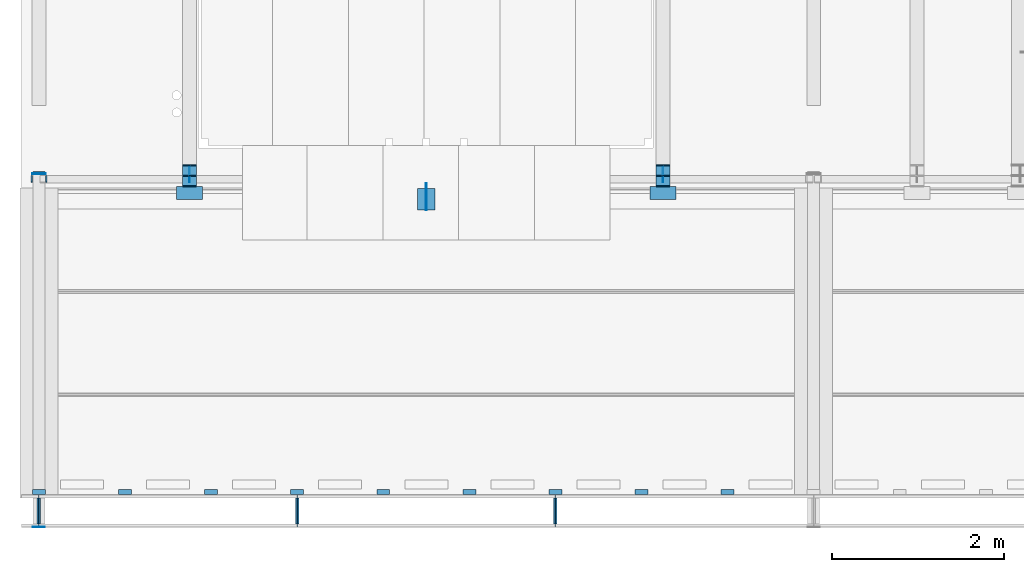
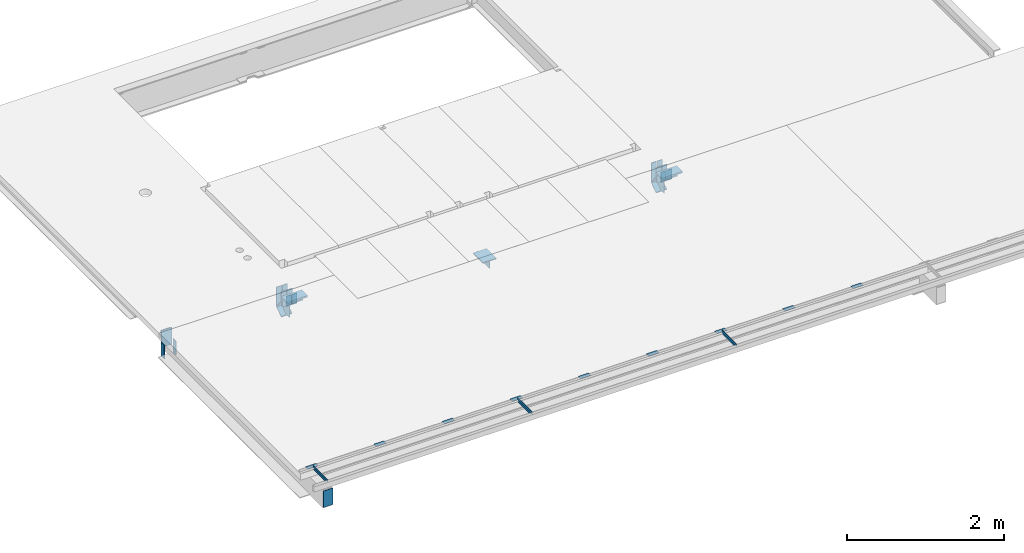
# One storey, part 3 of 13: 41 beams.
"""IFC2X3 building model written with IfcOpenShell, lengths in millimetres."""

import ifcopenshell
import ifcopenshell.guid

model = None  # the IFC model being written
_history = None  # IfcOwnerHistory: only IFC2X3 demands one
_inside = {}  # id of a spatial element -> (the spatial element, [elements in it])
_under = {}  # id of a project, library or spatial element -> (it, [spatial elements below it])
_declared = {}  # id of a project -> (the project, [libraries it declares])
_typed = {}  # id of a type object -> (the type object, [elements of that type])
_made_of = {}  # id of a material, layer set ... -> (it, [elements and type objects made of it])


def new_model(schema):
    """Start an empty IFC model of exactly this schema.

    Asked for "IFC4X3", IfcOpenShell would pick the latest addendum, in which some entities
    have other attributes; the version numbers below select the first issue.
    IFC2X3 requires an IfcOwnerHistory on every rooted entity: one is made here for all.
    """
    global model, _history
    if schema == "IFC4X3":
        model = ifcopenshell.file(schema_version=(4, 3, 0, 0))
    else:
        model = ifcopenshell.file(schema=schema)
    _inside.clear()
    _under.clear()
    _declared.clear()
    _typed.clear()
    _made_of.clear()
    _history = None
    if model.schema == "IFC2X3":
        org = make("IfcOrganization", Name="unknown")
        user = make(
            "IfcPersonAndOrganization",
            ThePerson=make("IfcPerson", FamilyName="unknown"),
            TheOrganization=org,
        )
        app = make(
            "IfcApplication",
            ApplicationDeveloper=org,
            Version="unknown",
            ApplicationFullName="unknown",
            ApplicationIdentifier="unknown",
        )
        _history = make(
            "IfcOwnerHistory",
            OwningUser=user,
            OwningApplication=app,
            ChangeAction="ADDED",
            CreationDate=0,
        )
    return model


def make(cls, **values):
    """One entity of the class cls with the attributes given. An attribute that is None is left unset."""
    return model.create_entity(
        cls, **{name: value for name, value in values.items() if value is not None}
    )


def entity(cls, *values):
    """Any entity or typed value of the class cls, its attributes in the order of the schema. None: left unset."""
    e = model.create_entity(cls)
    for i, value in enumerate(values):
        if value is not None:
            e[i] = value
    return e


def rooted(cls, **values):
    """An entity with a GlobalId (a new one), such as an element, a storey or a relation."""
    return make(cls, GlobalId=ifcopenshell.guid.new(), OwnerHistory=_history, **values)


def si_unit(unit_type, name, prefix=None):
    """IfcSIUnit, for example si_unit("LENGTHUNIT", "METRE", prefix="MILLI")."""
    return make("IfcSIUnit", UnitType=unit_type, Prefix=prefix, Name=name)


def converted_unit(unit_type, name, factor, base, dimensions=None, offset=None):
    """IfcConversionBasedUnit, such as the inch: factor (a typed value) times the base unit."""
    return make(
        "IfcConversionBasedUnit"
        if offset is None
        else "IfcConversionBasedUnitWithOffset",
        ConversionOffset=offset,
        Dimensions=None
        if dimensions is None
        else entity("IfcDimensionalExponents", *dimensions),
        UnitType=unit_type,
        Name=name,
        ConversionFactor=make(
            "IfcMeasureWithUnit", ValueComponent=factor, UnitComponent=base
        ),
    )


def derived_unit(unit_type, elements):
    """IfcDerivedUnit: a product of units, each with its exponent."""
    return make(
        "IfcDerivedUnit",
        Elements=[
            make("IfcDerivedUnitElement", Unit=unit, Exponent=power)
            for unit, power in elements
        ],
        UnitType=unit_type,
    )


def assignment(units):
    """IfcUnitAssignment: the units of a project."""
    return None if units is None else make("IfcUnitAssignment", Units=units)


def point(xyz):
    """IfcCartesianPoint."""
    return None if xyz is None else make("IfcCartesianPoint", Coordinates=xyz)


def direction(xyz):
    """IfcDirection."""
    return None if xyz is None else make("IfcDirection", DirectionRatios=xyz)


def frame(location, z_axis=None, x_axis=None):
    """IfcAxis2Placement3D, a coordinate frame: its origin and axes. An axis left out is left unset."""
    return make(
        "IfcAxis2Placement3D",
        Location=point(location),
        Axis=direction(z_axis),
        RefDirection=direction(x_axis),
    )


def origin_with_axes():
    """The frame at (0, 0, 0) with the z axis (0, 0, 1) and the x axis (1, 0, 0) written out."""
    return frame((0.0, 0.0, 0.0), z_axis=(0.0, 0.0, 1.0), x_axis=(1.0, 0.0, 0.0))


def place(relative_to, where):
    """IfcLocalPlacement: puts the frame where relative to a parent placement (None: the world)."""
    return make(
        "IfcLocalPlacement", PlacementRelTo=relative_to, RelativePlacement=where
    )


def context(
    kind, dimensions, precision=None, world=None, true_north=None, identifier=None
):
    """IfcGeometricRepresentationContext, for example the 3D "Model" context."""
    return make(
        "IfcGeometricRepresentationContext",
        ContextIdentifier=identifier,
        ContextType=kind,
        CoordinateSpaceDimension=dimensions,
        Precision=precision,
        WorldCoordinateSystem=world,
        TrueNorth=true_north,
    )


def subcontext(parent, identifier, kind, view, scale=None):
    """IfcGeometricRepresentationSubContext, for example "Body" below "Model"."""
    return make(
        "IfcGeometricRepresentationSubContext",
        ContextIdentifier=identifier,
        ContextType=kind,
        ParentContext=parent,
        TargetScale=scale,
        TargetView=view,
    )


def project(units=None, contexts=None):
    """IfcProject with its units and contexts."""
    return rooted(
        "IfcProject",
        Name="project",
        RepresentationContexts=contexts,
        UnitsInContext=assignment(units),
    )


def spatial(cls, under=None, at=None, **own):
    """A site, building, storey or space (cls), placed at a placement, below another one or the project."""
    s = rooted(cls, ObjectPlacement=at, **own)
    if under is not None:
        _under.setdefault(under.id(), (under, []))[1].append(s)
    return s


def faces_of(points, faces, orient=None, outer=None):
    """IfcFace entities. A face is a list of loops; a loop is a list of indices into points, from 0.

    orient and outer hold one flag for each loop. By default every Orientation is true, the
    first loop of a face is its IfcFaceOuterBound and the others are IfcFaceBound.
    """
    made = []
    for i, loops in enumerate(faces):
        bounds = []
        for j, loop in enumerate(loops):
            is_outer = j == 0 if outer is None else outer[i][j]
            bounds.append(
                make(
                    "IfcFaceOuterBound" if is_outer else "IfcFaceBound",
                    Bound=make("IfcPolyLoop", Polygon=[points[k] for k in loop]),
                    Orientation=True if orient is None else orient[i][j],
                )
            )
        made.append(make("IfcFace", Bounds=bounds))
    return made


def faceted_brep(points, faces, orient=None, outer=None, voids=None):
    """IfcFacetedBrep: a solid bounded by flat faces; with voids (closed shells), ...WithVoids."""
    shared = [point(p) for p in points]
    hull = make("IfcClosedShell", CfsFaces=faces_of(shared, faces, orient, outer))
    if voids is None:
        return make("IfcFacetedBrep", Outer=hull)
    return make(
        "IfcFacetedBrepWithVoids",
        Outer=hull,
        Voids=[
            make(cls, CfsFaces=faces_of(shared, fs, o, b)) for cls, fs, o, b in voids
        ],
    )


def shape(context_of_items, identifier, shape_type, items):
    """IfcShapeRepresentation: the items that make up one representation, for example the "Body"."""
    return make(
        "IfcShapeRepresentation",
        ContextOfItems=context_of_items,
        RepresentationIdentifier=identifier,
        RepresentationType=shape_type,
        Items=items,
    )


def material(Name=None, Category=None):
    """IfcMaterial."""
    return make("IfcMaterial", Name=Name, Category=Category)


def made_of(thing, what):
    """Note that an element or type object is made of a material, layer set ...; save() writes the relation."""
    if what is not None:
        _made_of.setdefault(what.id(), (what, []))[1].append(thing)
    return thing


def type_object(cls, material=None, **own):
    """A type object (cls), such as IfcWallType, which elements share."""
    return made_of(rooted(cls, **own), material)


def element(
    cls,
    number,
    at=None,
    inside=None,
    cuts=None,
    type_object=None,
    material=None,
    context=None,
    identifier="Body",
    shape_type=None,
    held_by="IfcProductDefinitionShape",
    body=None,
    shapes=None,
    **own,
):
    """One element of the class cls, such as IfcWall. Its Tag is "e" and its number.

    at: its placement. inside: the storey or other place that contains it. cuts: it is an
    opening in that element (IfcRelVoidsElement). A single representation is given by context,
    identifier, shape_type and body (its items); several are given by shapes. held_by: the class
    of the entity that holds the representations. save() writes the other relations.
    """
    e = rooted(cls, Tag="e%d" % number, ObjectPlacement=at, **own)
    if body is not None:
        shapes = [shape(context, identifier, shape_type, body)]
    if shapes is not None:
        e.Representation = make(held_by, Representations=shapes)
    if inside is not None:
        _inside.setdefault(inside.id(), (inside, []))[1].append(e)
    if cuts is not None:
        rooted(
            "IfcRelVoidsElement", RelatingBuildingElement=cuts, RelatedOpeningElement=e
        )
    if type_object is not None:
        _typed.setdefault(type_object.id(), (type_object, []))[1].append(e)
    return made_of(e, material)


def aggregate(whole, parts):
    """IfcRelAggregates: a whole, such as a stair, and the parts it consists of."""
    return rooted("IfcRelAggregates", RelatingObject=whole, RelatedObjects=parts)


def save(model, path):
    """Write the relations noted so far, then the file.

    IfcRelAggregates (storeys below a building ...), IfcRelContainedInSpatialStructure (elements
    in a storey), IfcRelDefinesByType, IfcRelAssociatesMaterial and IfcRelDeclares: one each for
    every whole, place, type object, material and project.
    """
    for whole, parts in _under.values():
        aggregate(whole, parts)
    for where, things in _inside.values():
        rooted(
            "IfcRelContainedInSpatialStructure",
            RelatedElements=things,
            RelatingStructure=where,
        )
    for kind, things in _typed.values():
        rooted("IfcRelDefinesByType", RelatedObjects=things, RelatingType=kind)
    for what, things in _made_of.values():
        rooted("IfcRelAssociatesMaterial", RelatedObjects=things, RelatingMaterial=what)
    for by, libraries in _declared.values():
        rooted("IfcRelDeclares", RelatingContext=by, RelatedDefinitions=libraries)
    model.write(path)


model = new_model("IFC2X3")

# Units and contexts
model_context = context("Model", 3, precision=0.01, world=frame((0.0, 4.29681676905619e-09, 0.0)), true_north=direction((4.01073788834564e-13, 1.0)))
plan_context = context("Plan", 3, precision=0.01, world=frame((0.0, 4.29681676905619e-09, 0.0)), true_north=direction((4.01073788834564e-13, 1.0)))
body_context = subcontext(model_context, "Body", "Model", "MODEL_VIEW")
ifc_project = project(units=[converted_unit("PLANEANGLEUNIT", "DEGREE", entity("IfcPositiveLengthMeasure", 0.0174532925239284), si_unit("PLANEANGLEUNIT", "RADIAN"), dimensions=[0, 0, 0, 0, 0, 0, 0]), si_unit("AREAUNIT", "SQUARE_METRE"), si_unit("LENGTHUNIT", "METRE", prefix="MILLI"), si_unit("MASSUNIT", "GRAM", prefix="KILO"), si_unit("POWERUNIT", "WATT"), si_unit("PRESSUREUNIT", "PASCAL", prefix="KILO"), si_unit("FORCEUNIT", "NEWTON", prefix="KILO"), si_unit("ELECTRICVOLTAGEUNIT", "VOLT"), si_unit("ELECTRICCURRENTUNIT", "AMPERE"), si_unit("THERMODYNAMICTEMPERATUREUNIT", "DEGREE_CELSIUS"), si_unit("TIMEUNIT", "SECOND"), si_unit("VOLUMEUNIT", "CUBIC_METRE"), derived_unit("LINEARVELOCITYUNIT", [(si_unit("LENGTHUNIT", "METRE"), 1), (si_unit("TIMEUNIT", "SECOND"), -1)]), derived_unit("VOLUMETRICFLOWRATEUNIT", [(si_unit("VOLUMEUNIT", "CUBIC_METRE"), 1), (si_unit("TIMEUNIT", "SECOND"), -1)]), derived_unit("THERMALTRANSMITTANCEUNIT", [(si_unit("POWERUNIT", "WATT"), 1), (si_unit("THERMODYNAMICTEMPERATUREUNIT", "KELVIN"), -1), (si_unit("AREAUNIT", "SQUARE_METRE"), -1)]), derived_unit("SOUNDPRESSUREUNIT", [(si_unit("PRESSUREUNIT", "PASCAL"), 1)])], contexts=[model_context, plan_context])

# Site, building, storey
site_placement = place(None, frame((0.0, -4.29681676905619e-09, 0.0), z_axis=(0.0, 0.0, 1.0), x_axis=(1.0, 0.0, 0.0)))
site = spatial("IfcSite", under=ifc_project, at=site_placement, Name="Gardermoen", CompositionType="ELEMENT")
building_placement = place(site_placement, frame((0.0, 4.29681676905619e-09, 0.0), z_axis=(0.0, 0.0, 1.0), x_axis=(1.0, 0.0, 0.0)))
building = spatial("IfcBuilding", under=site, at=building_placement, Name="TG", CompositionType="ELEMENT")
storey_placement = place(building_placement, origin_with_axes())
storey = spatial("IfcBuildingStorey", under=building, at=storey_placement, Name="G", CompositionType="ELEMENT", Elevation=0.0)

# Beams
ifc_material_1 = material(Name="STEEL/S355")
beam_type_1 = type_object("IfcBeamType", Name="PL10*110", PredefinedType="NOTDEFINED")
beam_1_placement = place(storey_placement, frame((326500.0, 462179.995625, 213170.0), z_axis=(0.0, 0.0, 1.0), x_axis=(0.0, -1.0, 0.0)))
element("IfcBeam", 1, at=beam_1_placement, inside=storey, type_object=beam_type_1, material=ifc_material_1, Name="STÅLBJELKE", ObjectType="PL10*110", context=body_context, shape_type="Brep", body=[
    faceted_brep([(5.82076609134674e-11, -5.0, 2.91038304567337e-11), (0.0, -5.0, 80.0), (0.0, 5.0, 80.0), (5.82076609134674e-11, 5.0, 2.91038304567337e-11), (65.0, -5.0, 80.0), (65.0, 5.0, 80.0), (65.0, -5.0, 110.0), (65.0, 5.0, 110.0), (315.0, -5.0, 110.0), (315.0, 5.0, 110.0), (315.0, -5.0, 0.0), (315.0, 5.0, 0.0)], [[[0, 1, 2, 3]], [[1, 4, 5, 2]], [[4, 6, 7, 5]], [[6, 8, 9, 7]], [[8, 10, 11, 9]], [[10, 0, 3, 11]], [[5, 7, 9, 11, 3, 2]], [[10, 8, 6, 4, 1, 0]]]),
])
ifc_material_2 = material(Name="STEEL/S355J0")
beam_type_2 = type_object("IfcBeamType", Name="PL5*140", PredefinedType="NOTDEFINED")
beam_2_placement = place(storey_placement, frame((322000.000872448, 458182.5, 213293.0), z_axis=(1.0, 0.0, 0.0), x_axis=(0.0, 0.0, 1.0)))
element("IfcBeam", 2, at=beam_2_placement, inside=storey, type_object=beam_type_2, material=ifc_material_2, Name="STÅLBJELKE", ObjectType="PL5*140", context=body_context, shape_type="Brep", body=[
    faceted_brep([(0.0, 2.5, -70.0), (0.0, 2.5, 70.0), (257.0, 2.5, 70.0), (257.0, 2.5, -70.0), (0.0, -2.5, 70.0), (257.0, -2.5, 70.0), (0.0, -2.5, -70.0), (257.0, -2.5, -70.0)], [[[0, 1, 2, 3]], [[1, 4, 5, 2]], [[4, 6, 7, 5]], [[6, 0, 3, 7]], [[5, 7, 3, 2]], [[6, 4, 1, 0]]]),
])
beam_type_3 = type_object("IfcBeamType", Name="L150*150*25", PredefinedType="NOTDEFINED")
for number, where, z_axis, x_axis in (
    (3, (323899.999765, 462062.995625, 213510.0), (0.0, 0.0, -1.0), (-1.0, 0.0, 0.0)),
    (4, (329399.999765, 462062.995625, 213510.0), (0.0, 0.0, -1.0), (-1.0, 0.0, 0.0)),
):
    element("IfcBeam", number, at=place(storey_placement, frame(where, z_axis=z_axis, x_axis=x_axis)), inside=storey, type_object=beam_type_3, material=ifc_material_1, Name="STÅLBJELKE", ObjectType="L150*150*25", context=body_context, shape_type="Brep", body=[
        faceted_brep([(0.0, 75.0, -75.0), (0.0, 75.0, 75.0), (300.0, 75.0, 75.0), (300.0, 75.0, -75.0), (0.0, 50.0, 75.0), (300.0, 50.0, 75.0), (0.0, 50.0, -50.0), (300.0, 50.0, -50.0), (0.0, -75.0, -50.0), (300.0, -75.0, -50.0), (0.0, -75.0, -75.0), (300.0, -75.0, -75.0)], [[[0, 1, 2, 3]], [[1, 4, 5, 2]], [[4, 6, 7, 5]], [[6, 8, 9, 7]], [[8, 10, 11, 9]], [[10, 0, 3, 11]], [[5, 7, 9, 11, 3, 2]], [[10, 8, 6, 4, 1, 0]]]),
    ])
beam_type_4 = type_object("IfcBeamType", Name="PL160*10", PredefinedType="NOTDEFINED")
for number, where, z_axis, x_axis in (
    (5, (323749.999765, 462137.995625, 213405.0), (1.0, 0.0, 0.0), (0.0, 1.0, 0.0)),
    (6, (329249.999765, 462137.995625, 213405.0), (1.0, 0.0, 0.0), (0.0, 1.0, 0.0)),
):
    element("IfcBeam", number, at=place(storey_placement, frame(where, z_axis=z_axis, x_axis=x_axis)), inside=storey, type_object=beam_type_4, material=ifc_material_1, Name="STÅLBJELKE", ObjectType="PL160*10", context=body_context, shape_type="Brep", body=[
        faceted_brep([(0.0, 5.0, -80.0), (0.0, 5.0, 80.0), (131.903864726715, 5.0, 80.0), (131.903864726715, 5.0, -80.0), (0.0, -5.0, 80.0), (127.000000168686, -5.0, 80.0), (0.0, -5.0, -80.0), (127.000000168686, -5.0, -80.0)], [[[0, 1, 2, 3]], [[1, 4, 5, 2]], [[4, 6, 7, 5]], [[6, 0, 3, 7]], [[5, 7, 3, 2]], [[6, 4, 1, 0]]]),
    ])
beam_3_placement = place(storey_placement, frame((323749.999765, 462262.140302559, 213164.104526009), z_axis=(1.0, 0.0, 0.0), x_axis=(0.0, 0.820905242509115, 0.57106442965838)))
element("IfcBeam", 7, at=beam_3_placement, inside=storey, type_object=beam_type_4, material=ifc_material_1, Name="STÅLBJELKE", ObjectType="PL160*10", context=body_context, shape_type="Brep", body=[
    faceted_brep([(6.95652103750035, 5.0, -80.0), (6.95652103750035, 5.0, 80.0), (147.045771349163, 4.99999999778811, 80.0), (147.045771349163, 4.99999999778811, -80.0), (0.0, -5.0, 80.0), (140.089250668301, -5.00000000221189, 80.0), (0.0, -5.0, -80.0), (140.089250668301, -5.00000000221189, -80.0)], [[[0, 1, 2, 3]], [[1, 4, 5, 2]], [[4, 6, 7, 5]], [[6, 0, 3, 7]], [[5, 7, 3, 2]], [[6, 4, 1, 0]]]),
])
beam_4_placement = place(storey_placement, frame((323749.999765, 462268.948827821, 213403.061402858), z_axis=(1.0, 0.0, 0.0), x_axis=(0.0, 0.612280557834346, -0.79064057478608)))
element("IfcBeam", 8, at=beam_4_placement, inside=storey, type_object=beam_type_4, material=ifc_material_1, Name="STÅLBJELKE", ObjectType="PL160*10", context=body_context, shape_type="Brep", body=[
    faceted_brep([(-4.90386462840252, 4.99999999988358, -80.0), (-4.90386462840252, 4.99999999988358, 80.0), (174.909349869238, 5.00000000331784, 80.0), (174.909349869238, 5.00000000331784, -80.0), (0.0, -5.0, 80.0), (187.822393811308, -4.99999999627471, 80.0), (0.0, -5.0, -80.0), (187.822393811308, -4.99999999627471, -80.0)], [[[0, 1, 2, 3]], [[1, 4, 5, 2]], [[4, 6, 7, 5]], [[6, 0, 3, 7]], [[5, 7, 3, 2]], [[6, 4, 1, 0]]]),
])
beam_5_placement = place(storey_placement, frame((329249.999765, 462262.140302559, 213164.104526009), z_axis=(1.0, 0.0, 0.0), x_axis=(0.0, 0.820905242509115, 0.57106442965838)))
element("IfcBeam", 9, at=beam_5_placement, inside=storey, type_object=beam_type_4, material=ifc_material_1, Name="STÅLBJELKE", ObjectType="PL160*10", context=body_context, shape_type="Brep", body=[
    faceted_brep([(6.95652103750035, 5.0, -80.0), (6.95652103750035, 5.0, 80.0), (147.045771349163, 4.99999999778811, 80.0), (147.045771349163, 4.99999999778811, -80.0), (0.0, -5.0, 80.0), (140.089250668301, -5.00000000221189, 80.0), (0.0, -5.0, -80.0), (140.089250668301, -5.00000000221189, -80.0)], [[[0, 1, 2, 3]], [[1, 4, 5, 2]], [[4, 6, 7, 5]], [[6, 0, 3, 7]], [[5, 7, 3, 2]], [[6, 4, 1, 0]]]),
])
beam_6_placement = place(storey_placement, frame((329249.999765, 462268.948827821, 213403.061402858), z_axis=(1.0, 0.0, 0.0), x_axis=(0.0, 0.612280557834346, -0.79064057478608)))
element("IfcBeam", 10, at=beam_6_placement, inside=storey, type_object=beam_type_4, material=ifc_material_1, Name="STÅLBJELKE", ObjectType="PL160*10", context=body_context, shape_type="Brep", body=[
    faceted_brep([(-4.90386462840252, 4.99999999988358, -80.0), (-4.90386462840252, 4.99999999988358, 80.0), (174.909349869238, 5.00000000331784, 80.0), (174.909349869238, 5.00000000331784, -80.0), (0.0, -5.0, 80.0), (187.822393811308, -4.99999999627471, 80.0), (0.0, -5.0, -80.0), (187.822393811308, -4.99999999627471, -80.0)], [[[0, 1, 2, 3]], [[1, 4, 5, 2]], [[4, 6, 7, 5]], [[6, 0, 3, 7]], [[5, 7, 3, 2]], [[6, 4, 1, 0]]]),
])
beam_type_5 = type_object("IfcBeamType", Name="PL307*10", PredefinedType="NOTDEFINED")
for number, where, z_axis, x_axis in (
    (11, (323746.249765, 462384.995625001, 213405.0), (0.0, 0.0, 1.0), (-1.0, 0.0, 0.0)),
    (12, (323753.750703, 462384.995625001, 213405.0), (0.0, 0.0, 1.0), (1.0, 0.0, 0.0)),
    (13, (329246.249765, 462384.995625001, 213405.0), (0.0, 0.0, 1.0), (-1.0, 0.0, 0.0)),
    (14, (329253.750703, 462384.995625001, 213405.0), (0.0, 0.0, 1.0), (1.0, 0.0, 0.0)),
):
    element("IfcBeam", number, at=place(storey_placement, frame(where, z_axis=z_axis, x_axis=x_axis)), inside=storey, type_object=beam_type_5, material=ifc_material_1, Name="STÅLBJELKE", ObjectType="PL307*10", context=body_context, shape_type="Brep", body=[
        faceted_brep([(0.0, 5.0, -153.5), (0.0, 5.0, 153.5), (76.2490620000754, 5.0, 153.5), (76.2490620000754, 5.0, -153.5), (0.0, -5.0, 153.5), (76.2490620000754, -5.0, 153.5), (0.0, -5.0, -153.5), (76.2490620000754, -5.0, -153.5)], [[[0, 1, 2, 3]], [[1, 4, 5, 2]], [[4, 6, 7, 5]], [[6, 0, 3, 7]], [[5, 7, 3, 2]], [[6, 4, 1, 0]]]),
    ])
beam_type_6 = type_object("IfcBeamType", Name="PL8*190", PredefinedType="NOTDEFINED")
for number, where, z_axis, x_axis in (
    (15, (323749.999765, 462189.495625, 213384.36), (0.0, 1.0, 0.0), (0.0, 0.0, -1.0)),
    (16, (329249.999765, 462189.495625, 213384.36), (0.0, 1.0, 0.0), (0.0, 0.0, -1.0)),
):
    element("IfcBeam", number, at=place(storey_placement, frame(where, z_axis=z_axis, x_axis=x_axis)), inside=storey, type_object=beam_type_6, material=ifc_material_1, Name="STÅLBJELKE", ObjectType="PL8*190", context=body_context, shape_type="Brep", body=[
        faceted_brep([(0.0, -4.0, 0.0), (-6.03999996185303, -4.0, 75.5), (-6.03999996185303, 4.0, 75.5), (0.0, 4.0, 0.0), (-15.6400003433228, -4.0, 75.5), (-15.6400003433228, 4.0, 75.5), (132.4169921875, -4.0, 190.156936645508), (132.4169921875, 4.0, 190.156936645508), (212.178329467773, -4.0, 75.5), (212.178329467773, 4.0, 75.5), (214.759994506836, -4.0, 75.5), (214.759994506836, 4.0, 75.5), (208.720001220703, -4.0, 0.0), (208.720001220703, 4.0, 0.0)], [[[0, 1, 2, 3]], [[1, 4, 5, 2]], [[4, 6, 7, 5]], [[6, 8, 9, 7]], [[8, 10, 11, 9]], [[10, 12, 13, 11]], [[12, 0, 3, 13]], [[5, 7, 9, 11, 13, 3, 2]], [[12, 10, 8, 6, 4, 1, 0]]]),
    ])
beam_type_7 = type_object("IfcBeamType", Name="PL148.5*10", PredefinedType="NOTDEFINED")
for number, where, z_axis, x_axis in (
    (17, (323746.249765, 462142.995625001, 213484.25), (0.0, 0.0, 1.0), (-1.0, 0.0, 0.0)),
    (18, (323753.750703, 462142.995625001, 213484.25), (0.0, 0.0, 1.0), (1.0, 0.0, 0.0)),
    (19, (323746.249765, 462264.895625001, 213484.25), (0.0, 0.0, 1.0), (-1.0, 0.0, 0.0)),
    (20, (323753.750703, 462264.895625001, 213484.25), (0.0, 0.0, 1.0), (1.0, 0.0, 0.0)),
    (21, (329246.249765, 462142.995625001, 213484.25), (0.0, 0.0, 1.0), (-1.0, 0.0, 0.0)),
    (22, (329253.750703, 462142.995625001, 213484.25), (0.0, 0.0, 1.0), (1.0, 0.0, 0.0)),
    (23, (329246.249765, 462264.895625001, 213484.25), (0.0, 0.0, 1.0), (-1.0, 0.0, 0.0)),
    (24, (329253.750703, 462264.895625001, 213484.25), (0.0, 0.0, 1.0), (1.0, 0.0, 0.0)),
):
    element("IfcBeam", number, at=place(storey_placement, frame(where, z_axis=z_axis, x_axis=x_axis)), inside=storey, type_object=beam_type_7, material=ifc_material_1, Name="STÅLBJELKE", ObjectType="PL148.5*10", context=body_context, shape_type="Brep", body=[
        faceted_brep([(0.0, 5.0, -74.25), (0.0, 5.0, 74.25), (76.2490620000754, 5.0, 74.25), (76.2490620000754, 5.0, -74.25), (0.0, -5.0, 74.25), (76.2490620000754, -5.0, 74.25), (0.0, -5.0, -74.25), (76.2490620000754, -5.0, -74.25)], [[[0, 1, 2, 3]], [[1, 4, 5, 2]], [[4, 6, 7, 5]], [[6, 0, 3, 7]], [[5, 7, 3, 2]], [[6, 4, 1, 0]]]),
    ])
beam_type_8 = type_object("IfcBeamType", Name="PL10*160", PredefinedType="NOTDEFINED")
beam_7_placement = place(storey_placement, frame((322000.000002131, 462285.999973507, 213291.5), z_axis=(-1.0, 0.0, 0.0), x_axis=(0.0, 0.0, 1.0)))
element("IfcBeam", 25, at=beam_7_placement, inside=storey, type_object=beam_type_8, material=ifc_material_2, Name="STÅLBJELKE", ObjectType="PL10*160", context=body_context, shape_type="Brep", body=[
    faceted_brep([(0.0, 5.0, -80.0), (0.0, 5.0, 80.0), (260.0, 5.0, 80.0), (260.0, 5.0, -80.0), (0.0, -5.0, 80.0), (260.0, -5.0, 80.0), (0.0, -5.0, -80.0), (260.0, -5.0, -80.0)], [[[0, 1, 2, 3]], [[1, 4, 5, 2]], [[4, 6, 7, 5]], [[6, 0, 3, 7]], [[5, 7, 3, 2]], [[6, 4, 1, 0]]]),
])
beam_type_9 = type_object("IfcBeamType", Name="25*140", PredefinedType="NOTDEFINED")
beam_8_placement = place(storey_placement, frame((321999.999125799, 462303.499965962, 213541.000007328), z_axis=(0.0, -1.0, 0.0), x_axis=(0.0, 0.0, -1.0)))
element("IfcBeam", 26, at=beam_8_placement, inside=storey, type_object=beam_type_9, material=ifc_material_1, Name="STÅLBJELKE", ObjectType="25*140", context=body_context, shape_type="Brep", body=[
    faceted_brep([(5.82076609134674e-10, 69.9999999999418, -12.5000000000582), (6.98491930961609e-10, 69.9999999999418, 12.5), (129.999999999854, 69.9999999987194, 12.5000000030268), (129.999999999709, 69.9999999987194, -12.4999999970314), (-6.11180439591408e-10, -70.0000000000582, 12.5), (129.999999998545, -70.0000000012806, 12.5000000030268), (-7.27595761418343e-10, -70.0000000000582, -12.5000000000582), (129.999999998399, -70.0000000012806, -12.4999999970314)], [[[0, 1, 2, 3]], [[1, 4, 5, 2]], [[4, 6, 7, 5]], [[6, 0, 3, 7]], [[5, 7, 3, 2]], [[6, 4, 1, 0]]]),
])
beam_type_10 = type_object("IfcBeamType", Name="PL15*200", PredefinedType="NOTDEFINED")
beam_9_placement = place(storey_placement, frame((326600.0, 462114.995625, 213287.5), z_axis=(-1.0, 0.0, 0.0), x_axis=(0.0, -1.0, 0.0)))
element("IfcBeam", 27, at=beam_9_placement, inside=storey, type_object=beam_type_10, material=ifc_material_1, Name="STÅLBJELKE", ObjectType="PL15*200", context=body_context, shape_type="Brep", body=[
    faceted_brep([(0.0, -7.5, 0.0), (0.0, -7.5, 200.0), (0.0, 7.5, 200.0), (0.0, 7.5, 0.0), (250.0, -7.5, 200.0), (250.0, 7.5, 200.0), (250.0, -7.5, 0.0), (250.0, 7.5, 0.0)], [[[0, 1, 2, 3]], [[1, 4, 5, 2]], [[4, 6, 7, 5]], [[6, 0, 3, 7]], [[5, 7, 3, 2]], [[6, 4, 1, 0]]]),
])
beam_type_11 = type_object("IfcBeamType", Name="T40", PredefinedType="NOTDEFINED")
for number, where, z_axis, x_axis in (
    (28, (328000.0, 458184.0, 213680.131614), (0.0, 0.0, -1.0), (0.0, 1.0, 0.0)),
    (29, (322000.0, 458184.0, 213680.131614), (0.0, 0.0, -1.0), (0.0, 1.0, 0.0)),
    (30, (325000.0, 458184.0, 213680.131614), (0.0, 0.0, -1.0), (0.0, 1.0, 0.0)),
):
    element("IfcBeam", number, at=place(storey_placement, frame(where, z_axis=z_axis, x_axis=x_axis)), inside=storey, type_object=beam_type_11, material=ifc_material_1, Name="STÅLBJELKE", ObjectType="T40", context=body_context, shape_type="Brep", body=[
        faceted_brep([(35.9999576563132, -2.5, 15.0), (35.9999798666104, 2.5, 15.0), (0.0, 2.5, 15.0), (0.0, -2.5, 15.0), (35.9999602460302, -19.9999999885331, 20.0006316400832), (35.9997825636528, 20.0, 20.0), (35.9998799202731, 20.0, 15.0), (36.0000576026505, -20.0, 15.0), (0.0, -2.5, -20.0), (0.0, 2.5, -20.0), (372.0, 2.5, -20.0), (372.0, -2.5, -20.0), (372.0, 2.5, 15.0), (372.000315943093, -2.49999997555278, 14.9992803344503), (336.000315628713, 2.5, 15.0), (336.000293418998, -2.5, 15.0), (336.000395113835, -20.0, 20.0), (336.000393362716, -20.0, 15.0), (336.000215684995, 20.0, 15.0), (336.000217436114, 20.0, 20.0)], [[[0, 1, 2, 3]], [[4, 5, 6, 1, 0, 7]], [[8, 9, 10, 11]], [[11, 10, 12, 13]], [[13, 12, 14, 15]], [[16, 17, 15, 14, 18, 19]], [[17, 16, 4, 7]], [[15, 17, 7, 0]], [[8, 11, 13, 15, 0, 3]], [[9, 8, 3, 2]], [[14, 12, 10, 9, 2, 1]], [[18, 14, 1, 6]], [[19, 18, 6, 5]], [[16, 19, 5, 4]]]),
    ])
beam_type_12 = type_object("IfcBeamType", Name="60*5", PredefinedType="NOTDEFINED")
for number, where, z_axis, x_axis in (
    (31, (329925.002562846, 458589.999997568, 213662.631638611), (0.0, -1.0, 0.0), (1.0, 0.0, 0.0)),
    (32, (328925.002562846, 458589.999997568, 213662.631638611), (0.0, -1.0, 0.0), (1.0, 0.0, 0.0)),
    (33, (327925.002562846, 458589.999997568, 213662.631638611), (0.0, -1.0, 0.0), (1.0, 0.0, 0.0)),
    (34, (326925.002562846, 458589.999997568, 213662.631638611), (0.0, -1.0, 0.0), (1.0, 0.0, 0.0)),
    (35, (325925.002562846, 458589.999997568, 213662.631638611), (0.0, -1.0, 0.0), (1.0, 0.0, 0.0)),
    (36, (324925.002562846, 458589.999997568, 213662.631638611), (0.0, -1.0, 0.0), (1.0, 0.0, 0.0)),
    (37, (323925.002562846, 458589.999997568, 213662.631638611), (0.0, -1.0, 0.0), (1.0, 0.0, 0.0)),
    (38, (322925.002562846, 458589.999997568, 213662.631638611), (0.0, -1.0, 0.0), (1.0, 0.0, 0.0)),
    (39, (321925.002562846, 458589.999997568, 213662.631638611), (0.0, -1.0, 0.0), (1.0, 0.0, 0.0)),
):
    element("IfcBeam", number, at=place(storey_placement, frame(where, z_axis=z_axis, x_axis=x_axis)), inside=storey, type_object=beam_type_12, material=ifc_material_1, Name="STÅLBJELKE", ObjectType="60*5", context=body_context, shape_type="Brep", body=[
        faceted_brep([(0.0, 2.5, -30.0), (0.0, 2.5, 30.0), (150.0, 2.5, 30.0), (150.0, 2.5, -30.0), (0.0, -2.5, 30.0), (150.0, -2.5, 30.0), (0.0, -2.5, -30.0), (150.0, -2.5, -30.0)], [[[0, 1, 2, 3]], [[1, 4, 5, 2]], [[4, 6, 7, 5]], [[6, 0, 3, 7]], [[5, 7, 3, 2]], [[6, 4, 1, 0]]]),
    ])
beam_type_13 = type_object("IfcBeamType", Name="PL10*76", PredefinedType="NOTDEFINED")
for number, where, z_axis, x_axis in (
    (40, (322085.0, 462264.995625, 213169.6), (0.0, -1.0, 0.0), (0.0, 0.0, 1.0)),
    (41, (321915.0, 462264.995625, 213169.6), (0.0, -1.0, 0.0), (0.0, 0.0, 1.0)),
):
    element("IfcBeam", number, at=place(storey_placement, frame(where, z_axis=z_axis, x_axis=x_axis)), inside=storey, type_object=beam_type_13, material=ifc_material_1, Name="STÅLBJELKE", ObjectType="PL10*76", context=body_context, shape_type="Brep", body=[
        faceted_brep([(5.82076609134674e-11, -5.0, 2.91038304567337e-11), (6.03999996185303, -5.0, 75.5), (6.03999996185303, 5.0, 75.5), (5.82076609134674e-11, 5.0, 2.91038304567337e-11), (214.759994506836, -5.0, 75.5), (214.759994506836, 5.0, 75.5), (220.800003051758, -5.0, 0.0), (220.800003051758, 5.0, 0.0)], [[[0, 1, 2, 3]], [[1, 4, 5, 2]], [[4, 6, 7, 5]], [[6, 0, 3, 7]], [[5, 7, 3, 2]], [[6, 4, 1, 0]]]),
    ])

save(model, "model.ifc")
